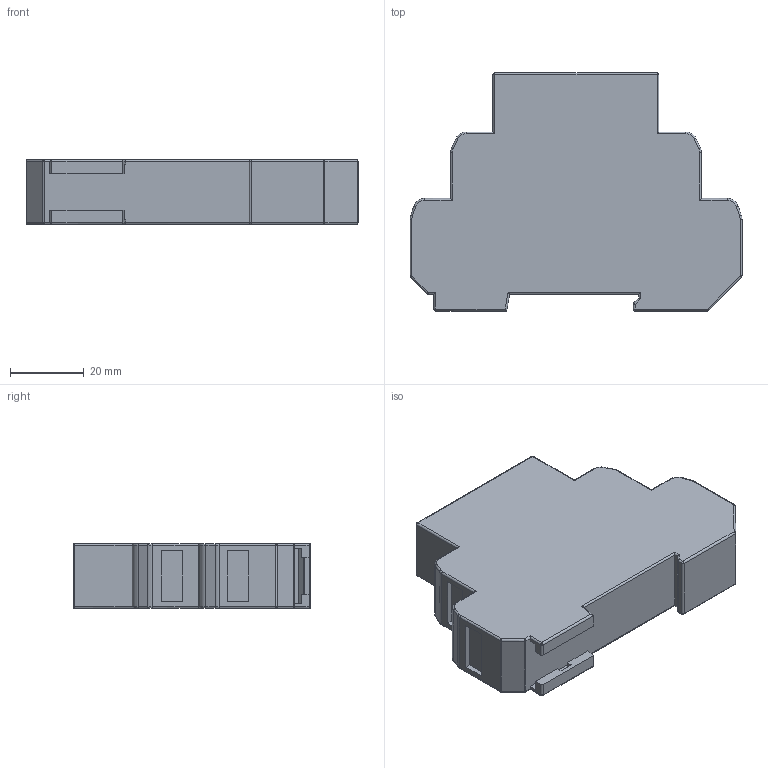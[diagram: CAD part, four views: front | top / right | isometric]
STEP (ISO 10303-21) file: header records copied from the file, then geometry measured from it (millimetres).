
FILE_DESCRIPTION(/* description */ (''),/* implementation_level */ '2;1');
FILE_NAME(/* name */ 'K:\PROJEKTY ROZPRACOVANÉ\MODELY DO KATALOGU\DTE, ZS-1DSM, HDT\3D - STEP\DT 1_5.stp',/* time_stamp */ '2021-08-24T07:44:19+02:00',/* author */ ('miko'),/* organization */ (''),/* preprocessor_version */ 'ST-DEVELOPER v18.1',/* originating_system */ 'Autodesk Inventor 2022',/* authorisation */ '');
FILE_SCHEMA (('AUTOMOTIVE_DESIGN { 1 0 10303 214 3 1 1 }'));
Length unit declared in the file: millimetre
Products named in the file (3): DT 1_5; DT 1_5_1; ISO 1207  - M1,6 x 3
Assembly tree (7 placements, depth 2):
  DT 1_5
    DT 1_5_1
    ISO 1207  - M1,6 x 3  x6
Bounding box: 90 x 64.5 x 17.6 mm (x, y, z)
Volume: 75945.4 mm3; surface area: 15218.2 mm2
Topology: 7 solids, 8 shells, 293 faces, 652 edges, 394 vertices
Faces by surface type: plane 131, cylinder 98, torus 28, sphere 18, cone 18
Full cylindrical faces by diameter (mm): 1.416 x6, 1.6 x6, 3.5 x6
Entity records: 6254 total; most frequent: DIRECTION 1142, CARTESIAN_POINT 1059, ORIENTED_EDGE 992, EDGE_CURVE 496, AXIS2_PLACEMENT_3D 417, LINE 308, VECTOR 308, VERTEX_POINT 294
